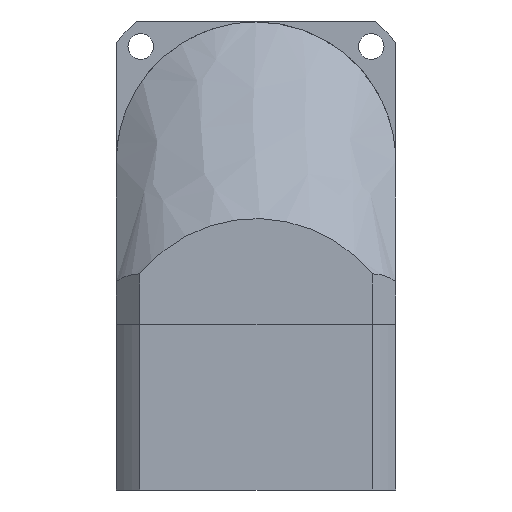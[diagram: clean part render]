
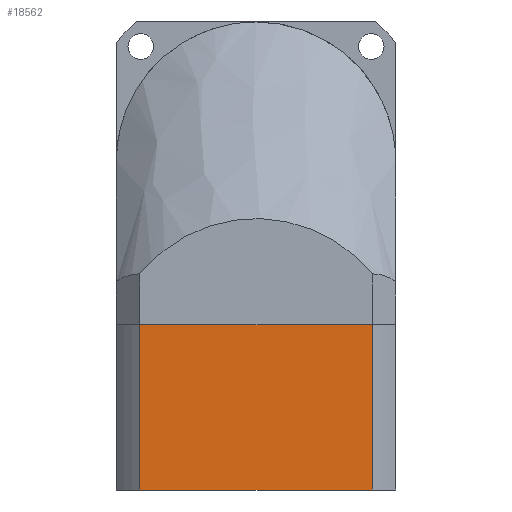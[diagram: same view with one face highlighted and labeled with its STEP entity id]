
A CAD part, front view. The second image highlights one B-rep face of the part: STEP entity #18562.
In plain terms, the highlighted planar face has unit normal (0, -1, 0).
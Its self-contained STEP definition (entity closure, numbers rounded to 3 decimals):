
#2771 = ORIENTED_EDGE ( 'NONE', *, *, #10270, .F. ) ;
#3438 = CARTESIAN_POINT ( 'NONE',  ( 24.92, -30., -35.5 ) ) ;
#3781 = ORIENTED_EDGE ( 'NONE', *, *, #6536, .T. ) ;
#5571 = EDGE_CURVE ( 'NONE', #27655, #14633, #8242, .T. ) ;
#6536 = EDGE_CURVE ( 'NONE', #19276, #27655, #6558, .T. ) ;
#6558 = LINE ( 'NONE', #11102, #21168 ) ;
#8222 = CARTESIAN_POINT ( 'NONE',  ( -30., -30., -35.5 ) ) ;
#8242 = LINE ( 'NONE', #22869, #9150 ) ;
#8667 = EDGE_CURVE ( 'NONE', #14633, #12854, #19184, .T. ) ;
#9150 = VECTOR ( 'NONE', #16366, 1000. ) ;
#9411 = CARTESIAN_POINT ( 'NONE',  ( 0., -30., -35.5 ) ) ;
#10270 = EDGE_CURVE ( 'NONE', #19276, #12854, #16817, .T. ) ;
#10392 = DIRECTION ( 'NONE',  ( 0., 0., -1. ) ) ;
#10693 = DIRECTION ( 'NONE',  ( 0., 0., -1. ) ) ;
#11102 = CARTESIAN_POINT ( 'NONE',  ( 0., -30., 0. ) ) ;
#12854 = VERTEX_POINT ( 'NONE', #3438 ) ;
#13426 = CARTESIAN_POINT ( 'NONE',  ( 24.92, -30., 0. ) ) ;
#13802 = AXIS2_PLACEMENT_3D ( 'NONE', #8222, #23466, #10392 ) ;
#13812 = ORIENTED_EDGE ( 'NONE', *, *, #8667, .T. ) ;
#14182 = DIRECTION ( 'NONE',  ( 1., 0., 0. ) ) ;
#14501 = PLANE ( 'NONE',  #13802 ) ;
#14633 = VERTEX_POINT ( 'NONE', #20906 ) ;
#16366 = DIRECTION ( 'NONE',  ( 0., 0., -1. ) ) ;
#16817 = LINE ( 'NONE', #21560, #18130 ) ;
#17537 = DIRECTION ( 'NONE',  ( -1., 0., 0. ) ) ;
#18130 = VECTOR ( 'NONE', #10693, 1000. ) ;
#18430 = VECTOR ( 'NONE', #14182, 1000. ) ;
#18562 = ADVANCED_FACE ( 'NONE', ( #27157 ), #14501, .T. ) ;
#19184 = LINE ( 'NONE', #9411, #18430 ) ;
#19276 = VERTEX_POINT ( 'NONE', #13426 ) ;
#20906 = CARTESIAN_POINT ( 'NONE',  ( -24.92, -30., -35.5 ) ) ;
#20950 = ORIENTED_EDGE ( 'NONE', *, *, #5571, .T. ) ;
#21168 = VECTOR ( 'NONE', #17537, 1000. ) ;
#21560 = CARTESIAN_POINT ( 'NONE',  ( 24.92, -30., 0. ) ) ;
#22869 = CARTESIAN_POINT ( 'NONE',  ( -24.92, -30., -35.5 ) ) ;
#23466 = DIRECTION ( 'NONE',  ( 0., -1., 0. ) ) ;
#24334 = CARTESIAN_POINT ( 'NONE',  ( -24.92, -30., 0. ) ) ;
#27157 = FACE_OUTER_BOUND ( 'NONE', #27652, .T. ) ;
#27652 = EDGE_LOOP ( 'NONE', ( #20950, #13812, #2771, #3781 ) ) ;
#27655 = VERTEX_POINT ( 'NONE', #24334 ) ;
